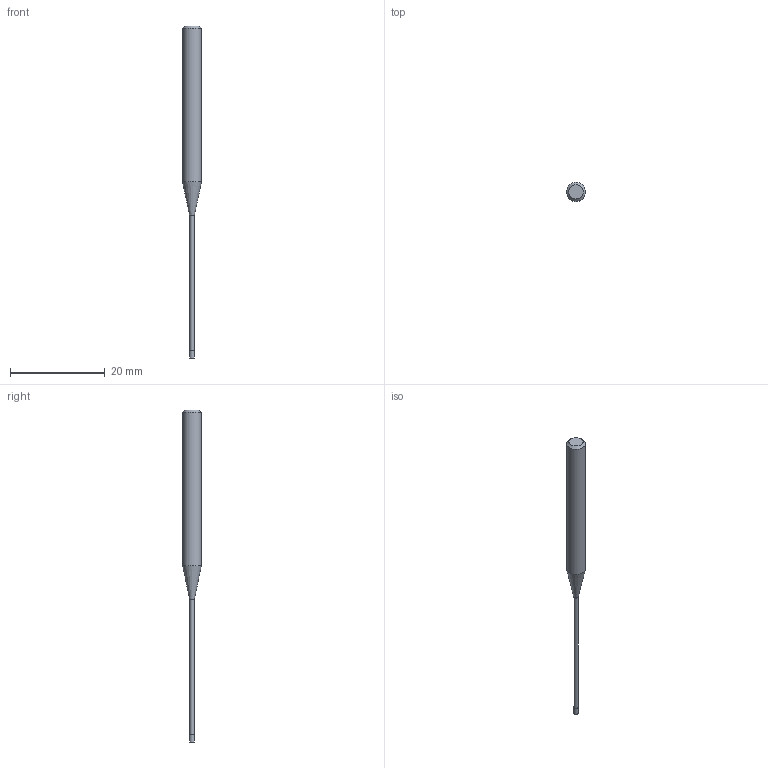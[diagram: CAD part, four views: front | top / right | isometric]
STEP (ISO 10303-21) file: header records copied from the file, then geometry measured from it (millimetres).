
FILE_DESCRIPTION((''),'2;1');
FILE_NAME('C:\Users\nsx150\AppData\Local\Temp\Mastercam 2021\17T8Q8S9EB\TEMP.step','2021-04-21T14:26:07',(''),(''),'STEP Write','Mastercam 2021 ... CNC Software, Inc.','');
FILE_SCHEMA(('AUTOMOTIVE_DESIGN'));
Length unit declared in the file: millimetre
Products named in the file (1): None
Bounding box: 4 x 4 x 70 mm (x, y, z)
Volume: 471.3 mm3; surface area: 570.1 mm2
Topology: 2 solids, 2 shells, 9 faces, 12 edges, 7 vertices
Faces by surface type: plane 4, cylinder 3, cone 2
Full cylindrical faces by diameter (mm): 0.95 x1, 1 x1, 4 x1
Entity records: 211 total; most frequent: DIRECTION 36, CARTESIAN_POINT 25, AXIS2_PLACEMENT_3D 18, ORIENTED_EDGE 14, EDGE_LOOP 14, STYLED_ITEM 12, ADVANCED_FACE 9, FACE_BOUND 8
